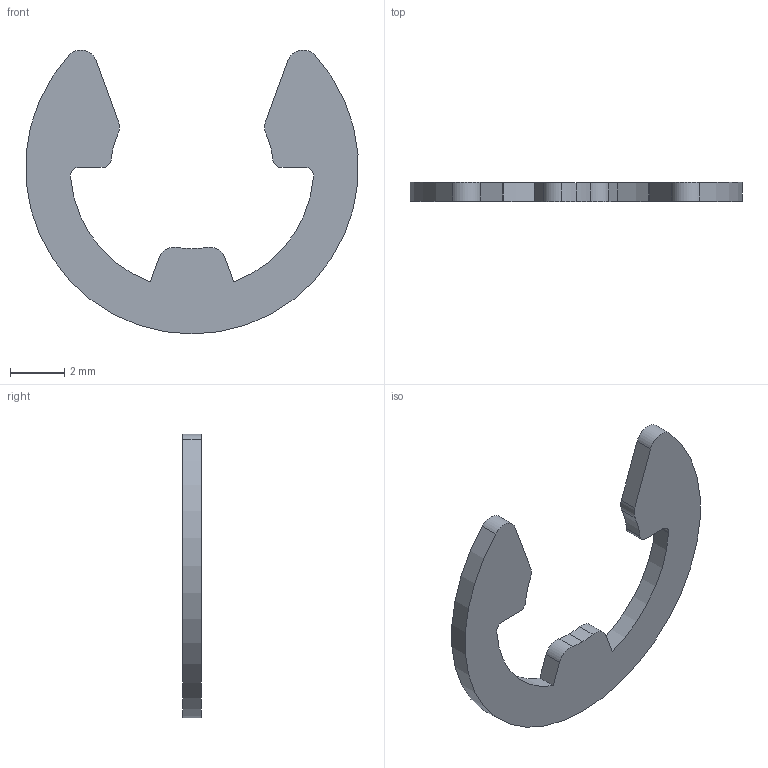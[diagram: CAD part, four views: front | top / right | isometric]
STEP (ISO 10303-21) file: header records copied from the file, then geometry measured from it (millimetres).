
FILE_DESCRIPTION (( 'STEP AP203' ), '1' );
FILE_NAME ('P0382.060-PH.step', '2019-07-25T21:00:23', ( '' ), ( '' ), 'SwSTEP 2.0', 'SolidWorks 2017', '' );
FILE_SCHEMA (( 'CONFIG_CONTROL_DESIGN' ));
Length unit declared in the file: millimetre
Products named in the file (1): P0382.060-PH
Bounding box: 12.26 x 0.7 x 10.49 mm (x, y, z)
Volume: 37.3 mm3; surface area: 146.6 mm2
Topology: 1 solids, 1 shells, 26 faces, 72 edges, 48 vertices
Faces by surface type: cylinder 18, plane 8
Entity records: 929 total; most frequent: DIRECTION 162, CARTESIAN_POINT 147, ORIENTED_EDGE 144, EDGE_CURVE 72, AXIS2_PLACEMENT_3D 63, VERTEX_POINT 48, CIRCLE 36, VECTOR 36
